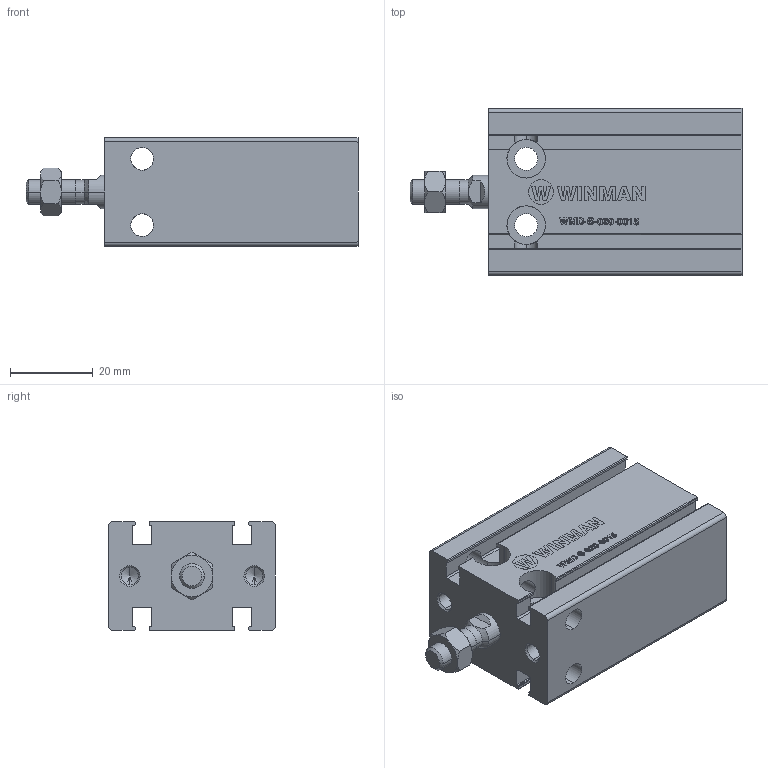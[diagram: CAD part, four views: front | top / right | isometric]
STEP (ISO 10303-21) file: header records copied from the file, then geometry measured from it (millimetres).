
FILE_DESCRIPTION (( 'STEP AP214' ), '1' );
FILE_NAME ('WMD-S-020-0015 (3D).STEP', '2019-10-09T14:08:35', ( '' ), ( '' ), 'SwSTEP 2.0', 'SolidWorks 2016', '' );
FILE_SCHEMA (( 'AUTOMOTIVE_DESIGN' ));
Length unit declared in the file: millimetre
Products named in the file (4): WMD-S-020-0015 - Body; WMD-S-020-0015 (3D); WMD-S-020-0015 - Nut Rod; WMD-S-020-0015 - Rod
Assembly tree (3 placements, depth 2):
  WMD-S-020-0015 (3D)
    WMD-S-020-0015 - Body
    WMD-S-020-0015 - Rod
    WMD-S-020-0015 - Nut Rod
Bounding box: 80 x 40.2 x 26.2 mm (x, y, z)
Volume: 50219.7 mm3; surface area: 20639.8 mm2
Topology: 3 solids, 3 shells, 481 faces, 1290 edges, 842 vertices
Faces by surface type: plane 246, cylinder 110, bspline 85, cone 40
Entity records: 22871 total; most frequent: CARTESIAN_POINT 8480, ORIENTED_EDGE 2564, DIRECTION 2056, EDGE_CURVE 1282, VERTEX_POINT 842, VECTOR 804, LINE 804, AXIS2_PLACEMENT_3D 626
